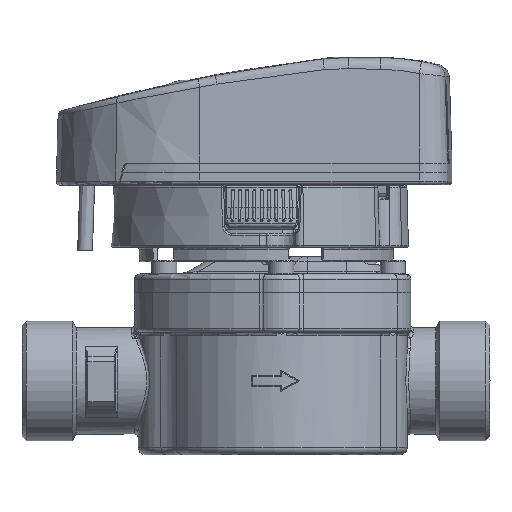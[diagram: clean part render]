
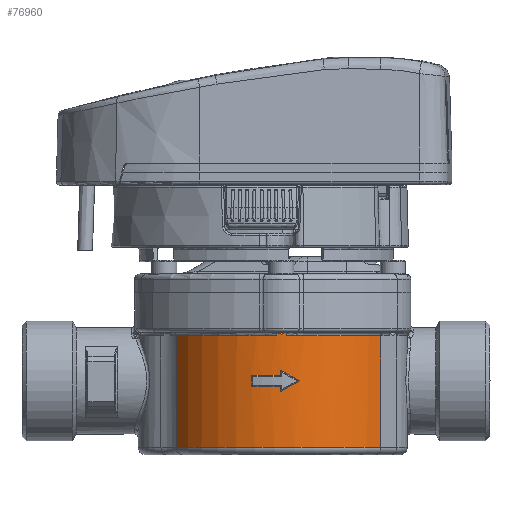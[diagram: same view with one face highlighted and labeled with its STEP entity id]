
A CAD part, front view. The second image highlights one B-rep face of the part: STEP entity #76960.
In plain terms, the highlighted cylindrical face has radius 34.337 mm (diameter 68.674 mm), a partial arc.
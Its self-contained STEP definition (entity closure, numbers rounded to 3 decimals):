
#363=ELLIPSE('',#83508,39.649,34.337);
#364=ELLIPSE('',#83510,39.649,34.337);
#2728=B_SPLINE_CURVE_WITH_KNOTS('',3,(#133884,#133885,#133886,#133887,#133888,
#133889,#133890,#133891,#133892,#133893,#133894,#133895,#133896,#133897,
#133898),.UNSPECIFIED.,.F.,.F.,(4,1,1,1,1,1,1,1,1,1,1,1,4),(0.,0.125,0.188,
0.25,0.313,0.375,0.5,0.625,0.688,0.75,0.813,0.875,1.),.UNSPECIFIED.);
#9137=LINE('',#134794,#13221);
#9142=LINE('',#134814,#13226);
#9147=LINE('',#134838,#13231);
#9153=LINE('',#134886,#13237);
#9154=LINE('',#134888,#13238);
#9155=LINE('',#134889,#13239);
#9156=LINE('',#134890,#13240);
#13221=VECTOR('',#99999,1000.);
#13226=VECTOR('',#100012,1000.);
#13231=VECTOR('',#100027,1000.);
#13237=VECTOR('',#100059,1000.);
#13238=VECTOR('',#100062,1000.);
#13239=VECTOR('',#100063,1000.);
#13240=VECTOR('',#100064,1000.);
#30403=ORIENTED_EDGE('',*,*,#41585,.F.);
#30404=ORIENTED_EDGE('',*,*,#41590,.F.);
#30405=ORIENTED_EDGE('',*,*,#41593,.F.);
#30406=ORIENTED_EDGE('',*,*,#41596,.F.);
#30407=ORIENTED_EDGE('',*,*,#41599,.F.);
#30408=ORIENTED_EDGE('',*,*,#41602,.F.);
#30409=ORIENTED_EDGE('',*,*,#41604,.F.);
#30410=ORIENTED_EDGE('',*,*,#41617,.F.);
#30411=ORIENTED_EDGE('',*,*,#41038,.F.);
#30412=ORIENTED_EDGE('',*,*,#41618,.F.);
#30413=ORIENTED_EDGE('',*,*,#41338,.F.);
#30414=ORIENTED_EDGE('',*,*,#41619,.T.);
#30415=ORIENTED_EDGE('',*,*,#41043,.F.);
#30416=ORIENTED_EDGE('',*,*,#41620,.T.);
#30417=ORIENTED_EDGE('',*,*,#41539,.T.);
#41038=EDGE_CURVE('',#47964,#47963,#51270,.T.);
#41043=EDGE_CURVE('',#47969,#47967,#51274,.T.);
#41338=EDGE_CURVE('',#48161,#48162,#2728,.F.);
#41539=EDGE_CURVE('',#48287,#48291,#51526,.T.);
#41585=EDGE_CURVE('',#48308,#48309,#9137,.T.);
#41590=EDGE_CURVE('',#48313,#48308,#51537,.T.);
#41593=EDGE_CURVE('',#48314,#48313,#9142,.T.);
#41596=EDGE_CURVE('',#48316,#48314,#363,.T.);
#41599=EDGE_CURVE('',#48318,#48316,#364,.T.);
#41602=EDGE_CURVE('',#48320,#48318,#9147,.T.);
#41604=EDGE_CURVE('',#48309,#48320,#51539,.T.);
#41617=EDGE_CURVE('',#47963,#48291,#9153,.T.);
#41618=EDGE_CURVE('',#48162,#47964,#9154,.T.);
#41619=EDGE_CURVE('',#48161,#47967,#9155,.T.);
#41620=EDGE_CURVE('',#47969,#48287,#9156,.T.);
#47963=VERTEX_POINT('',#132480);
#47964=VERTEX_POINT('',#132489);
#47967=VERTEX_POINT('',#132501);
#47969=VERTEX_POINT('',#132505);
#48161=VERTEX_POINT('',#133899);
#48162=VERTEX_POINT('',#133900);
#48287=VERTEX_POINT('',#134679);
#48291=VERTEX_POINT('',#134691);
#48308=VERTEX_POINT('',#134793);
#48309=VERTEX_POINT('',#134795);
#48313=VERTEX_POINT('',#134807);
#48314=VERTEX_POINT('',#134812);
#48316=VERTEX_POINT('',#134818);
#48318=VERTEX_POINT('',#134827);
#48320=VERTEX_POINT('',#134836);
#51270=CIRCLE('',#82998,34.337);
#51274=CIRCLE('',#83003,34.337);
#51526=CIRCLE('',#83462,34.337);
#51537=CIRCLE('',#83504,34.337);
#51539=CIRCLE('',#83513,34.337);
#55611=EDGE_LOOP('',(#30403,#30404,#30405,#30406,#30407,#30408,#30409));
#55612=EDGE_LOOP('',(#30410,#30411,#30412,#30413,#30414,#30415,#30416,#30417));
#59770=FACE_BOUND('',#55611,.T.);
#59771=FACE_BOUND('',#55612,.T.);
#61392=CYLINDRICAL_SURFACE('',#83525,34.337);
#76960=ADVANCED_FACE('',(#59770,#59771),#61392,.T.);
#82998=AXIS2_PLACEMENT_3D('',#132491,#98810,#98811);
#83003=AXIS2_PLACEMENT_3D('',#132506,#98820,#98821);
#83462=AXIS2_PLACEMENT_3D('',#134692,#99885,#99886);
#83504=AXIS2_PLACEMENT_3D('',#134808,#100005,#100006);
#83508=AXIS2_PLACEMENT_3D('',#134820,#100017,#100018);
#83510=AXIS2_PLACEMENT_3D('',#134829,#100022,#100023);
#83513=AXIS2_PLACEMENT_3D('',#134841,#100031,#100032);
#83525=AXIS2_PLACEMENT_3D('',#134887,#100060,#100061);
#98810=DIRECTION('',(0.,0.,1.));
#98811=DIRECTION('',(1.,0.,0.));
#98820=DIRECTION('',(0.,0.,1.));
#98821=DIRECTION('',(1.,0.,0.));
#99885=DIRECTION('',(0.,0.,1.));
#99886=DIRECTION('',(1.,0.,0.));
#99999=DIRECTION('',(0.,0.,-1.));
#100005=DIRECTION('',(0.,0.,-1.));
#100006=DIRECTION('',(0.,-1.,0.));
#100012=DIRECTION('',(0.,0.,-1.));
#100017=DIRECTION('',(0.,-0.5,-0.866));
#100018=DIRECTION('',(0.,0.866,-0.5));
#100022=DIRECTION('',(0.,-0.5,0.866));
#100023=DIRECTION('',(0.,-0.866,-0.5));
#100027=DIRECTION('',(0.,0.,-1.));
#100031=DIRECTION('',(0.,0.,1.));
#100032=DIRECTION('',(0.,1.,0.));
#100059=DIRECTION('',(0.,0.,-1.));
#100060=DIRECTION('',(0.,0.,-1.));
#100061=DIRECTION('',(-1.,0.,0.));
#100062=DIRECTION('',(0.,0.,-1.));
#100063=DIRECTION('',(0.,0.,-1.));
#100064=DIRECTION('',(0.,0.,-1.));
#132480=CARTESIAN_POINT('',(26.408,35.619,34.5));
#132489=CARTESIAN_POINT('',(39.589,9.406,34.5));
#132491=CARTESIAN_POINT('',(5.262,8.565,34.5));
#132501=CARTESIAN_POINT('',(39.544,6.625,34.5));
#132505=CARTESIAN_POINT('',(22.318,-21.236,34.5));
#132506=CARTESIAN_POINT('',(5.262,8.565,34.5));
#133884=CARTESIAN_POINT('',(39.589,9.406,35.5));
#133885=CARTESIAN_POINT('',(39.592,9.27,35.428));
#133886=CARTESIAN_POINT('',(39.596,9.087,35.335));
#133887=CARTESIAN_POINT('',(39.598,8.867,35.234));
#133888=CARTESIAN_POINT('',(39.599,8.756,35.185));
#133889=CARTESIAN_POINT('',(39.6,8.527,35.099));
#133890=CARTESIAN_POINT('',(39.598,8.285,35.033));
#133891=CARTESIAN_POINT('',(39.595,8.018,34.995));
#133892=CARTESIAN_POINT('',(39.59,7.749,35.032));
#133893=CARTESIAN_POINT('',(39.583,7.506,35.098));
#133894=CARTESIAN_POINT('',(39.575,7.277,35.184));
#133895=CARTESIAN_POINT('',(39.571,7.167,35.233));
#133896=CARTESIAN_POINT('',(39.561,6.946,35.334));
#133897=CARTESIAN_POINT('',(39.552,6.763,35.427));
#133898=CARTESIAN_POINT('',(39.544,6.625,35.5));
#133899=CARTESIAN_POINT('',(39.544,6.625,35.5));
#133900=CARTESIAN_POINT('',(39.589,9.406,35.5));
#134679=CARTESIAN_POINT('',(22.318,-21.236,3.5));
#134691=CARTESIAN_POINT('',(26.408,35.619,3.5));
#134692=CARTESIAN_POINT('',(5.262,8.565,3.5));
#134793=CARTESIAN_POINT('',(38.45,-0.244,23.5));
#134794=CARTESIAN_POINT('',(38.45,-0.244,500000.));
#134795=CARTESIAN_POINT('',(38.45,-0.244,20.5));
#134807=CARTESIAN_POINT('',(39.59,7.756,23.5));
#134808=CARTESIAN_POINT('',(5.262,8.565,23.5));
#134812=CARTESIAN_POINT('',(39.59,7.756,25.));
#134814=CARTESIAN_POINT('',(39.59,7.756,500000.));
#134818=CARTESIAN_POINT('',(39.318,12.952,22.));
#134820=CARTESIAN_POINT('',(5.262,8.565,24.533));
#134827=CARTESIAN_POINT('',(39.59,7.756,19.));
#134829=CARTESIAN_POINT('',(5.262,8.565,19.467));
#134836=CARTESIAN_POINT('',(39.59,7.756,20.5));
#134838=CARTESIAN_POINT('',(39.59,7.756,500000.));
#134841=CARTESIAN_POINT('',(5.262,8.565,20.5));
#134886=CARTESIAN_POINT('',(26.408,35.619,500000.));
#134887=CARTESIAN_POINT('',(5.262,8.565,500000.));
#134888=CARTESIAN_POINT('',(39.589,9.406,34.5));
#134889=CARTESIAN_POINT('',(39.544,6.625,35.5));
#134890=CARTESIAN_POINT('',(22.318,-21.236,500000.));
